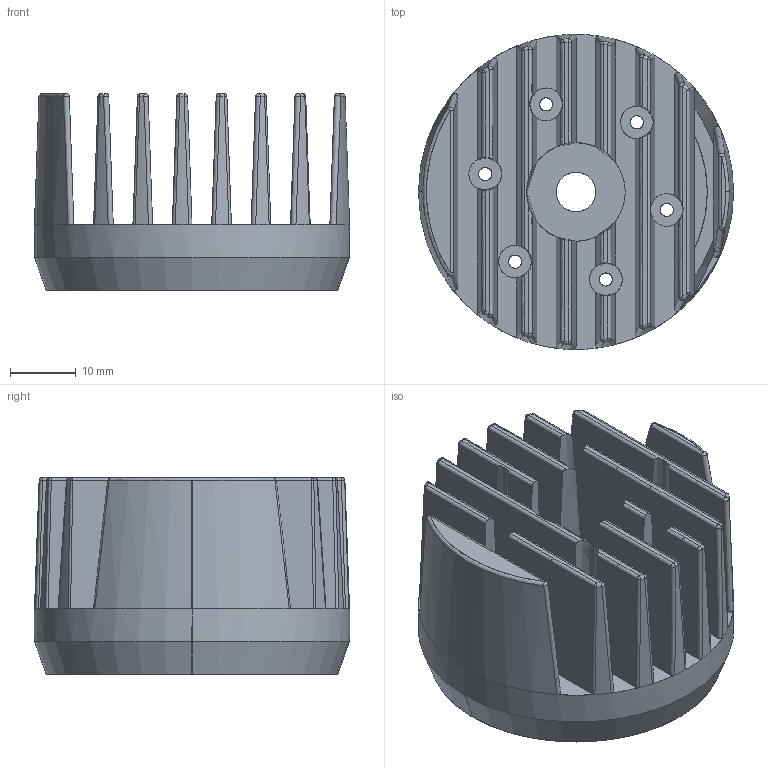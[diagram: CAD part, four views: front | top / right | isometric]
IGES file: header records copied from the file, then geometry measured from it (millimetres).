
Start section: SolidWorks IGES FILE using analytic representation for surfaces
Global section: file name: Y:\CONTENTCENTRAL\Engine head\cache\ENDEFAU0612200312149.igs; native system: SolidWorks 2003 by SolidWorks Corporation; preprocessor: Version 5.3; author: partstream; date: 030612.013009; units: millimetre
Bounding box: 48 x 48 x 30 mm (x, y, z)
Surface area: 16942.5 mm2 (no closed solid volume)
Topology: 0 solids, 0 shells, 214 faces, 2533 edges, 2505 vertices
Faces by surface type: revolution 108, bspline 106
